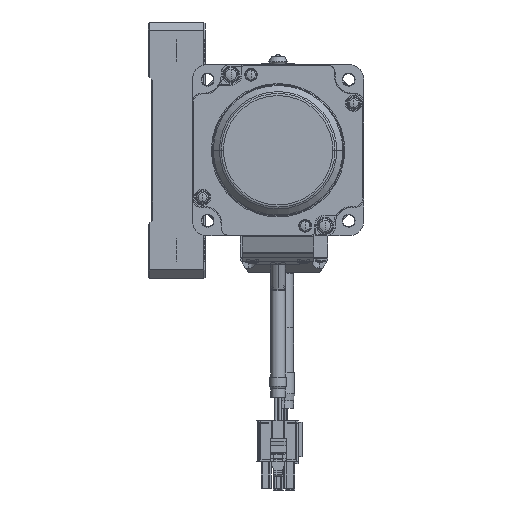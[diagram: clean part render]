
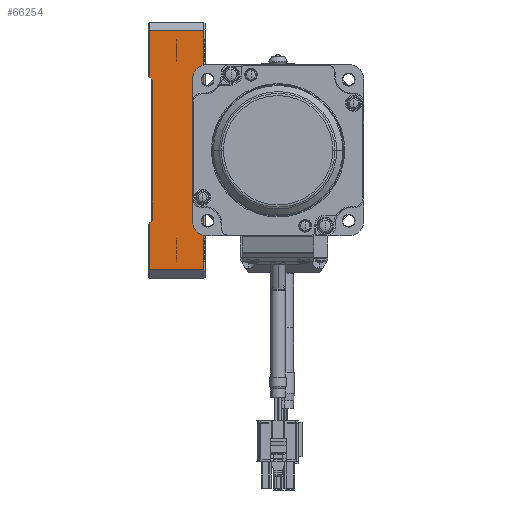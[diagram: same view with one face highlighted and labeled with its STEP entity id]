
A CAD part, front view. The second image highlights one B-rep face of the part: STEP entity #66254.
In plain terms, the highlighted planar face has unit normal (0, -1, 0) as drawn and (0, 0, 1) by its records, which use the part's own axes.
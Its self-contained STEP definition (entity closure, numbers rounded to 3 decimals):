
#64981=DIRECTION('',(0.707,0.707,0.));
#64982=VECTOR('',#64981,1.414);
#64983=CARTESIAN_POINT('',(-25.5,-9.5,12.5));
#64984=LINE('',#64983,#64982);
#65029=DIRECTION('',(1.,0.,0.));
#65030=VECTOR('',#65029,49.);
#65031=CARTESIAN_POINT('',(-24.5,-8.5,12.5));
#65032=LINE('',#65031,#65030);
#65033=DIRECTION('',(-1.,0.,0.));
#65034=VECTOR('',#65033,16.5);
#65035=CARTESIAN_POINT('',(-25.5,-9.5,12.5));
#65036=LINE('',#65035,#65034);
#65037=DIRECTION('',(0.,-1.,0.));
#65038=VECTOR('',#65037,19.);
#65039=CARTESIAN_POINT('',(-42.,9.5,12.5));
#65040=LINE('',#65039,#65038);
#65041=DIRECTION('',(1.,0.,0.));
#65042=VECTOR('',#65041,84.);
#65043=CARTESIAN_POINT('',(-42.,9.5,12.5));
#65044=LINE('',#65043,#65042);
#65045=DIRECTION('',(0.,-1.,0.));
#65046=VECTOR('',#65045,19.);
#65047=CARTESIAN_POINT('',(42.,9.5,12.5));
#65048=LINE('',#65047,#65046);
#65049=DIRECTION('',(-1.,0.,0.));
#65050=VECTOR('',#65049,16.5);
#65051=CARTESIAN_POINT('',(42.,-9.5,12.5));
#65052=LINE('',#65051,#65050);
#65257=DIRECTION('',(0.707,-0.707,0.));
#65258=VECTOR('',#65257,1.414);
#65259=CARTESIAN_POINT('',(24.5,-8.5,12.5));
#65260=LINE('',#65259,#65258);
#65877=CARTESIAN_POINT('',(-42.,9.5,12.5));
#65878=VERTEX_POINT('',#65877);
#65881=CARTESIAN_POINT('',(42.,9.5,12.5));
#65882=VERTEX_POINT('',#65881);
#65890=CARTESIAN_POINT('',(42.,-9.5,12.5));
#65892=VERTEX_POINT('',#65890);
#65915=CARTESIAN_POINT('',(-42.,-9.5,12.5));
#65916=VERTEX_POINT('',#65915);
#65918=CARTESIAN_POINT('',(-25.5,-9.5,12.5));
#65920=VERTEX_POINT('',#65918);
#65931=CARTESIAN_POINT('',(25.5,-9.5,12.5));
#65932=VERTEX_POINT('',#65931);
#65937=CARTESIAN_POINT('',(-24.5,-8.5,12.5));
#65938=CARTESIAN_POINT('',(24.5,-8.5,12.5));
#65939=VERTEX_POINT('',#65937);
#65940=VERTEX_POINT('',#65938);
#66233=CARTESIAN_POINT('',(-45.,-10.,12.5));
#66234=DIRECTION('',(0.,0.,1.));
#66235=DIRECTION('',(1.,0.,0.));
#66236=AXIS2_PLACEMENT_3D('',#66233,#66234,#66235);
#66237=PLANE('',#66236);
#66238=ORIENTED_EDGE('',*,*,#66226,.F.);
#66239=ORIENTED_EDGE('',*,*,#66185,.F.);
#66241=ORIENTED_EDGE('',*,*,#66240,.T.);
#66243=ORIENTED_EDGE('',*,*,#66242,.F.);
#66245=ORIENTED_EDGE('',*,*,#66244,.T.);
#66247=ORIENTED_EDGE('',*,*,#66246,.T.);
#66249=ORIENTED_EDGE('',*,*,#66248,.T.);
#66251=ORIENTED_EDGE('',*,*,#66250,.F.);
#66252=EDGE_LOOP('',(#66238,#66239,#66241,#66243,#66245,#66247,#66249,#66251));
#66253=FACE_OUTER_BOUND('',#66252,.F.);
#66254=ADVANCED_FACE('',(#66253),#66237,.T.);
#66185=EDGE_CURVE('',#65920,#65939,#64984,.T.);
#66226=EDGE_CURVE('',#65939,#65940,#65032,.T.);
#66240=EDGE_CURVE('',#65920,#65916,#65036,.T.);
#66242=EDGE_CURVE('',#65878,#65916,#65040,.T.);
#66244=EDGE_CURVE('',#65878,#65882,#65044,.T.);
#66246=EDGE_CURVE('',#65882,#65892,#65048,.T.);
#66248=EDGE_CURVE('',#65892,#65932,#65052,.T.);
#66250=EDGE_CURVE('',#65940,#65932,#65260,.T.);
